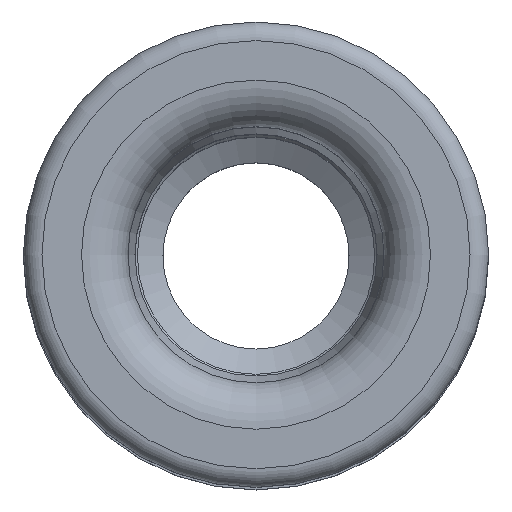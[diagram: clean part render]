
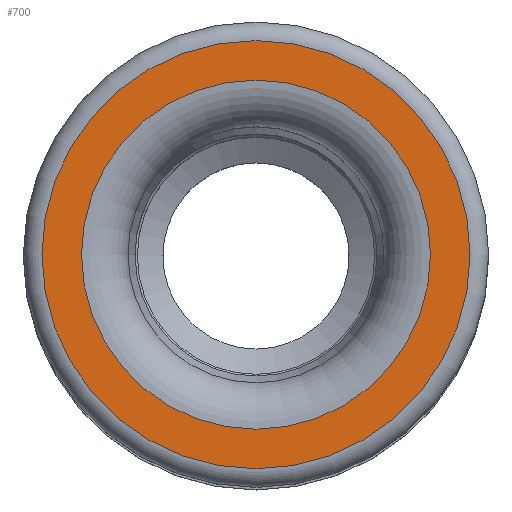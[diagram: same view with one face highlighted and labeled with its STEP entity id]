
A CAD part, top view. The second image highlights one B-rep face of the part: STEP entity #700.
In plain terms, the highlighted planar face has unit normal (0, 0, 1).
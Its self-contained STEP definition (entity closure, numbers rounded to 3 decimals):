
#700=ADVANCED_FACE('', (#710,#720), #730, .T.);
#3580=AXIS2_PLACEMENT_3D('Ax2Pl3d', #3590, #3600, #3610);
#3620=AXIS2_PLACEMENT_3D('Ax2Pl3d', #3630, #3640, #3650);
#3660=AXIS2_PLACEMENT_3D('Ax2Pl3d', #3670, #3680, #3690);
#3590=CARTESIAN_POINT('HicPkt', (8.719,10.029,
37.771));
#7290=CARTESIAN_POINT('', (13.319,10.029,37.771));
#3630=CARTESIAN_POINT('HicPkt', (13.319,10.029,
37.771));
#3670=CARTESIAN_POINT('HicPkt', (8.719,10.029,
37.771));
#7300=CARTESIAN_POINT('', (12.469,10.029,37.771));
#7850=CIRCLE('Circle', #3580, 4.6);
#7860=CIRCLE('Circle', #3660, 3.75);
#3600=DIRECTION('Axis', (0.,0.,1.));
#3610=DIRECTION('RefDirection', (1.,0.,-0.));
#3640=DIRECTION('Axis', (0.,0.,1.));
#3650=DIRECTION('RefDirection', (1.,0.,-0.));
#3680=DIRECTION('Axis', (0.,0.,1.));
#3690=DIRECTION('RefDirection', (1.,0.,-0.));
#10380=EDGE_CURVE('', #10390, #10390, #7850, .T.);
#10400=EDGE_CURVE('', #10410, #10410, #7860, .T.);
#11780=EDGE_LOOP('Edge_loop', (#11790));
#11800=EDGE_LOOP('Edge_loop', (#11810));
#720=FACE_BOUND('', #11800, .T.);
#710=FACE_OUTER_BOUND('Face_outer_bound', #11780, .T.);
#11790=ORIENTED_EDGE('', *, *, #10380, .T.);
#11810=ORIENTED_EDGE('', *, *, #10400, .F.);
#730=PLANE('Plane', #3620);
#10390=VERTEX_POINT('', #7290);
#10410=VERTEX_POINT('', #7300);
